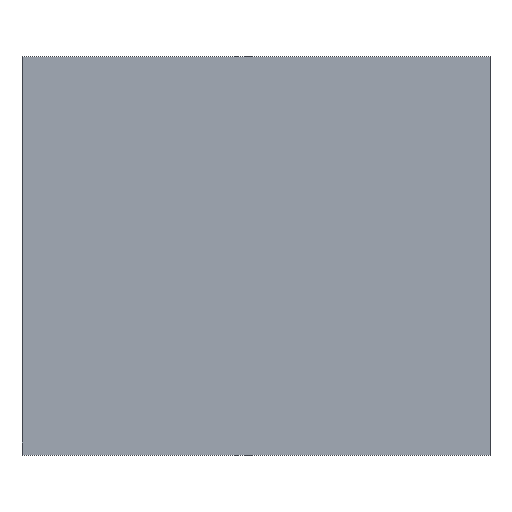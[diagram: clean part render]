
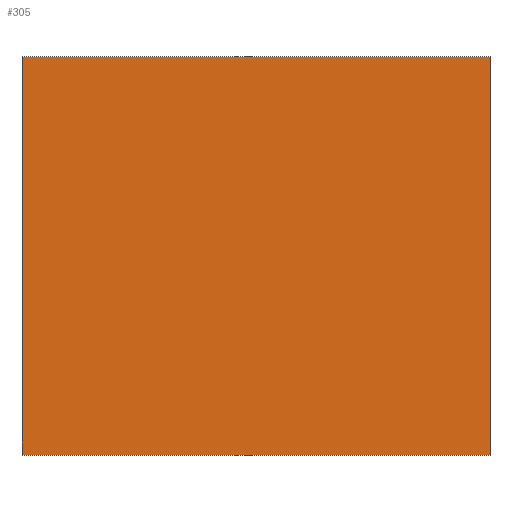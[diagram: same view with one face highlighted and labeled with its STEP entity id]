
A CAD part, top view. The second image highlights one B-rep face of the part: STEP entity #305.
In plain terms, the highlighted planar face has unit normal (0, 0, 1).
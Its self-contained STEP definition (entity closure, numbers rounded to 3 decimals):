
#48=FACE_OUTER_BOUND('',#68,.T.);
#68=EDGE_LOOP('',(#250,#251,#252,#253));
#92=LINE('',#490,#120);
#95=LINE('',#496,#123);
#98=LINE('',#502,#126);
#101=LINE('',#506,#129);
#120=VECTOR('',#412,10.);
#123=VECTOR('',#417,10.);
#126=VECTOR('',#422,10.);
#129=VECTOR('',#427,10.);
#148=VERTEX_POINT('',#487);
#149=VERTEX_POINT('',#489);
#151=VERTEX_POINT('',#495);
#153=VERTEX_POINT('',#501);
#180=EDGE_CURVE('',#149,#148,#92,.T.);
#183=EDGE_CURVE('',#151,#149,#95,.T.);
#186=EDGE_CURVE('',#153,#151,#98,.T.);
#189=EDGE_CURVE('',#148,#153,#101,.T.);
#250=ORIENTED_EDGE('',*,*,#189,.T.);
#251=ORIENTED_EDGE('',*,*,#186,.T.);
#252=ORIENTED_EDGE('',*,*,#183,.T.);
#253=ORIENTED_EDGE('',*,*,#180,.T.);
#272=PLANE('',#352);
#305=ADVANCED_FACE('',(#48),#272,.T.);
#352=AXIS2_PLACEMENT_3D('',#507,#428,#429);
#412=DIRECTION('',(1.,0.,0.));
#417=DIRECTION('',(0.,-1.,0.));
#422=DIRECTION('',(-1.,0.,0.));
#427=DIRECTION('',(0.,1.,0.));
#428=DIRECTION('center_axis',(0.,0.,1.));
#429=DIRECTION('ref_axis',(1.,0.,0.));
#487=CARTESIAN_POINT('',(176.25,-150.,120.));
#489=CARTESIAN_POINT('',(-176.25,-150.,120.));
#490=CARTESIAN_POINT('',(-176.25,-150.,120.));
#495=CARTESIAN_POINT('',(-176.25,150.,120.));
#496=CARTESIAN_POINT('',(-176.25,150.,120.));
#501=CARTESIAN_POINT('',(176.25,150.,120.));
#502=CARTESIAN_POINT('',(176.25,150.,120.));
#506=CARTESIAN_POINT('',(176.25,-150.,120.));
#507=CARTESIAN_POINT('Origin',(0.,0.,120.));
